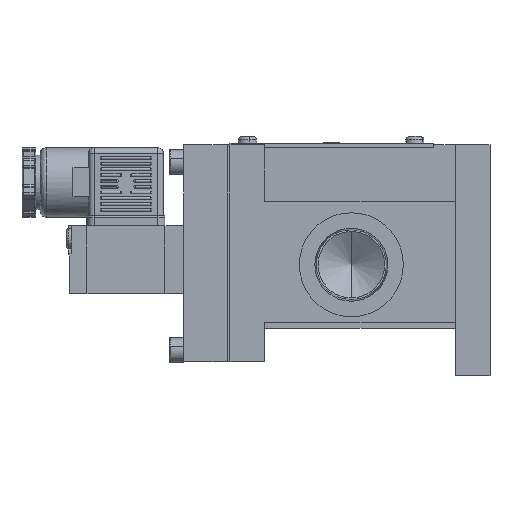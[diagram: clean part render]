
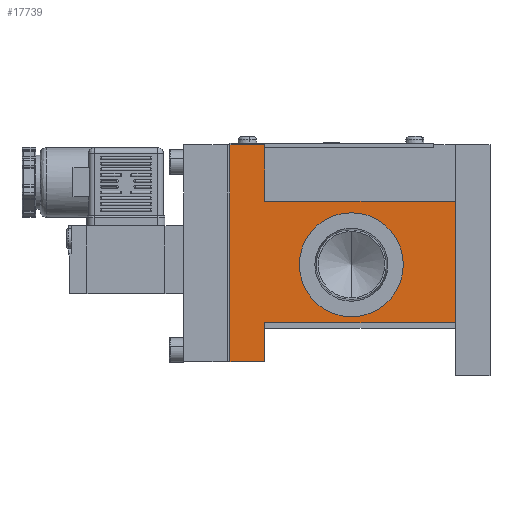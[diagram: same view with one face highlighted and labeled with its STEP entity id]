
A CAD part, left-side view. The second image highlights one B-rep face of the part: STEP entity #17739.
In plain terms, the highlighted planar face has unit normal (-1, 0, 0).
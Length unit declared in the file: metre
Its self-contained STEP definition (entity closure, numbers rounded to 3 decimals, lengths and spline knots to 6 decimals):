
#86 = VERTEX_POINT ( 'NONE', #27110 ) ;
#198 = VERTEX_POINT ( 'NONE', #20748 ) ;
#1001 = AXIS2_PLACEMENT_3D ( 'NONE', #16763, #3281, #19021 ) ;
#1177 = DIRECTION ( 'NONE',  ( -1., 0., 0. ) ) ;
#1756 = CARTESIAN_POINT ( 'NONE',  ( -0.0325, 0.078, 0.004 ) ) ;
#1781 = ORIENTED_EDGE ( 'NONE', *, *, #28527, .T. ) ;
#3020 = AXIS2_PLACEMENT_3D ( 'NONE', #17229, #3725, #19472 ) ;
#3281 = DIRECTION ( 'NONE',  ( 1., 0., 0. ) ) ;
#3400 = VERTEX_POINT ( 'NONE', #14893 ) ;
#3725 = DIRECTION ( 'NONE',  ( 1., 0., 0. ) ) ;
#3923 = VECTOR ( 'NONE', #4015, 1. ) ;
#3972 = ORIENTED_EDGE ( 'NONE', *, *, #14520, .T. ) ;
#4015 = DIRECTION ( 'NONE',  ( 0., 0., 1. ) ) ;
#4269 = EDGE_CURVE ( 'NONE', #27357, #22156, #15599, .T. ) ;
#4879 = VERTEX_POINT ( 'NONE', #10811 ) ;
#5857 = VECTOR ( 'NONE', #8809, 1. ) ;
#5880 = CARTESIAN_POINT ( 'NONE',  ( -0.0325, 0.09, 0.004 ) ) ;
#5969 = CARTESIAN_POINT ( 'NONE',  ( -0.0325, 0.078, -0.0335 ) ) ;
#6491 = CARTESIAN_POINT ( 'NONE',  ( -0.0325, 0.078, -0.02 ) ) ;
#6790 = CARTESIAN_POINT ( 'NONE',  ( -0.0325, 0.051, 0.0415 ) ) ;
#6979 = LINE ( 'NONE', #19139, #18273 ) ;
#7212 = VECTOR ( 'NONE', #8674, 1. ) ;
#8135 = DIRECTION ( 'NONE',  ( 0., 0., -1. ) ) ;
#8147 = ORIENTED_EDGE ( 'NONE', *, *, #8935, .T. ) ;
#8674 = DIRECTION ( 'NONE',  ( 0., -1., 0. ) ) ;
#8809 = DIRECTION ( 'NONE',  ( 0., 0., -1. ) ) ;
#8935 = EDGE_CURVE ( 'NONE', #13873, #14686, #6979, .T. ) ;
#9542 = VECTOR ( 'NONE', #8135, 1. ) ;
#9588 = VECTOR ( 'NONE', #13180, 1. ) ;
#10158 = CARTESIAN_POINT ( 'NONE',  ( -0.0325, 0.078, 0.022 ) ) ;
#10474 = VECTOR ( 'NONE', #20268, 1. ) ;
#10636 = EDGE_CURVE ( 'NONE', #23855, #3400, #27497, .T. ) ;
#10811 = CARTESIAN_POINT ( 'NONE',  ( -0.0325, 0.048, -0.018 ) ) ;
#11830 = LINE ( 'NONE', #24511, #5857 ) ;
#11843 = CARTESIAN_POINT ( 'NONE',  ( -0.0325, 0.09, 0.0415 ) ) ;
#12700 = EDGE_LOOP ( 'NONE', ( #19595, #1781 ) ) ;
#12849 = VECTOR ( 'NONE', #25532, 1. ) ;
#13180 = DIRECTION ( 'NONE',  ( 0., -1., 0. ) ) ;
#13873 = VERTEX_POINT ( 'NONE', #10158 ) ;
#14288 = EDGE_CURVE ( 'NONE', #4879, #198, #19970, .T. ) ;
#14373 = ORIENTED_EDGE ( 'NONE', *, *, #4269, .T. ) ;
#14520 = EDGE_CURVE ( 'NONE', #14686, #23855, #22395, .T. ) ;
#14686 = VERTEX_POINT ( 'NONE', #25654 ) ;
#14893 = CARTESIAN_POINT ( 'NONE',  ( -0.0325, 0.09, -0.0335 ) ) ;
#15599 = LINE ( 'NONE', #26654, #9588 ) ;
#16528 = CARTESIAN_POINT ( 'NONE',  ( -0.0325, 0.012, 0.022 ) ) ;
#16763 = CARTESIAN_POINT ( 'NONE',  ( -0.0325, 0.048, 0. ) ) ;
#16912 = DIRECTION ( 'NONE',  ( 0., 0., 1. ) ) ;
#17063 = ORIENTED_EDGE ( 'NONE', *, *, #25063, .T. ) ;
#17139 = ORIENTED_EDGE ( 'NONE', *, *, #10636, .T. ) ;
#17229 = CARTESIAN_POINT ( 'NONE',  ( -0.0325, 0.048, 0. ) ) ;
#17739 = ADVANCED_FACE ( 'NONE', ( #26506, #19833 ), #28135, .T. ) ;
#17871 = VERTEX_POINT ( 'NONE', #5969 ) ;
#18273 = VECTOR ( 'NONE', #21392, 1. ) ;
#18427 = ORIENTED_EDGE ( 'NONE', *, *, #20506, .F. ) ;
#18519 = ORIENTED_EDGE ( 'NONE', *, *, #21151, .T. ) ;
#18535 = AXIS2_PLACEMENT_3D ( 'NONE', #23559, #1177, #16912 ) ;
#19021 = DIRECTION ( 'NONE',  ( 0., 0., -1. ) ) ;
#19139 = CARTESIAN_POINT ( 'NONE',  ( -0.0325, 0.078, 0.004 ) ) ;
#19472 = DIRECTION ( 'NONE',  ( 0., 0., -1. ) ) ;
#19595 = ORIENTED_EDGE ( 'NONE', *, *, #14288, .T. ) ;
#19833 = FACE_OUTER_BOUND ( 'NONE', #20120, .T. ) ;
#19970 = CIRCLE ( 'NONE', #1001, 0.018 ) ;
#20120 = EDGE_LOOP ( 'NONE', ( #17139, #18519, #17063, #14373, #18427, #29182, #8147, #3972 ) ) ;
#20268 = DIRECTION ( 'NONE',  ( 0., 1., 0. ) ) ;
#20506 = EDGE_CURVE ( 'NONE', #86, #22156, #11830, .T. ) ;
#20748 = CARTESIAN_POINT ( 'NONE',  ( -0.0325, 0.048, 0.018 ) ) ;
#21151 = EDGE_CURVE ( 'NONE', #3400, #17871, #24466, .T. ) ;
#21392 = DIRECTION ( 'NONE',  ( 0., 0., 1. ) ) ;
#21450 = EDGE_CURVE ( 'NONE', #86, #13873, #26212, .T. ) ;
#22156 = VERTEX_POINT ( 'NONE', #26501 ) ;
#22395 = LINE ( 'NONE', #6790, #10474 ) ;
#23248 = LINE ( 'NONE', #1756, #3923 ) ;
#23515 = CIRCLE ( 'NONE', #3020, 0.018 ) ;
#23559 = CARTESIAN_POINT ( 'NONE',  ( -0.0325, 0.012, -0.0335 ) ) ;
#23855 = VERTEX_POINT ( 'NONE', #11843 ) ;
#24390 = CARTESIAN_POINT ( 'NONE',  ( -0.0325, 0.051, -0.0335 ) ) ;
#24466 = LINE ( 'NONE', #24390, #7212 ) ;
#24511 = CARTESIAN_POINT ( 'NONE',  ( -0.0325, 0.012, -0.0385 ) ) ;
#25063 = EDGE_CURVE ( 'NONE', #17871, #27357, #23248, .T. ) ;
#25532 = DIRECTION ( 'NONE',  ( 0., 1., 0. ) ) ;
#25654 = CARTESIAN_POINT ( 'NONE',  ( -0.0325, 0.078, 0.0415 ) ) ;
#26212 = LINE ( 'NONE', #16528, #12849 ) ;
#26501 = CARTESIAN_POINT ( 'NONE',  ( -0.0325, 0.012, -0.02 ) ) ;
#26506 = FACE_BOUND ( 'NONE', #12700, .T. ) ;
#26654 = CARTESIAN_POINT ( 'NONE',  ( -0.0325, 0.012, -0.02 ) ) ;
#27110 = CARTESIAN_POINT ( 'NONE',  ( -0.0325, 0.012, 0.022 ) ) ;
#27357 = VERTEX_POINT ( 'NONE', #6491 ) ;
#27497 = LINE ( 'NONE', #5880, #9542 ) ;
#28135 = PLANE ( 'NONE',  #18535 ) ;
#28527 = EDGE_CURVE ( 'NONE', #198, #4879, #23515, .T. ) ;
#29182 = ORIENTED_EDGE ( 'NONE', *, *, #21450, .T. ) ;
